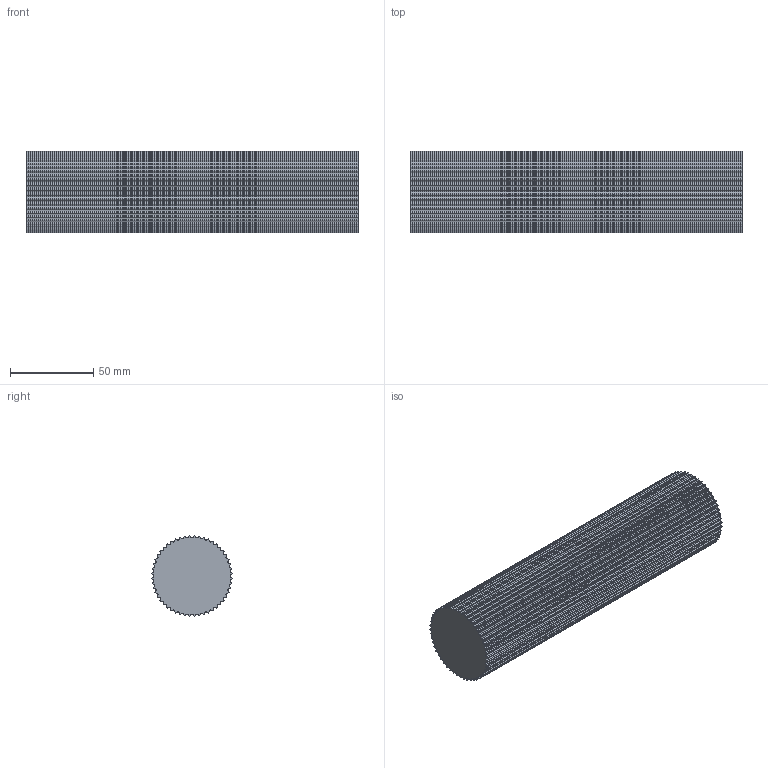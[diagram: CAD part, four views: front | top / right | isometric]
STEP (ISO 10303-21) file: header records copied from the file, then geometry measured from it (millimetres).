
FILE_DESCRIPTION( ( 'STEP AP214' ), '1' );
FILE_NAME( 'C:/Users/StangenbergN/Documents/CAD_Step/1/17095200.stp', '2019-08-23T07:11:37', ( '' ), ( '' ), ' ', 'PARTsolutions', ' ' );
FILE_SCHEMA( ( 'AUTOMOTIVE_DESIGN { 1 0 10303 214 1 1 1 1 }' ) );
Length unit declared in the file: millimetre
Products named in the file (1): _17095200
Bounding box: 200 x 48.81 x 48.81 mm (x, y, z)
Volume: 353163.9 mm3; surface area: 45567.2 mm2
Topology: 1 solids, 1 shells, 418 faces, 1248 edges, 832 vertices
Faces by surface type: cylinder 260, plane 158
Entity records: 17632 total; most frequent: DIRECTION 2606, CARTESIAN_POINT 2499, ORIENTED_EDGE 2496, EDGE_CURVE 1248, AXIS2_PLACEMENT_3D 939, VERTEX_POINT 832, LINE 728, VECTOR 728
